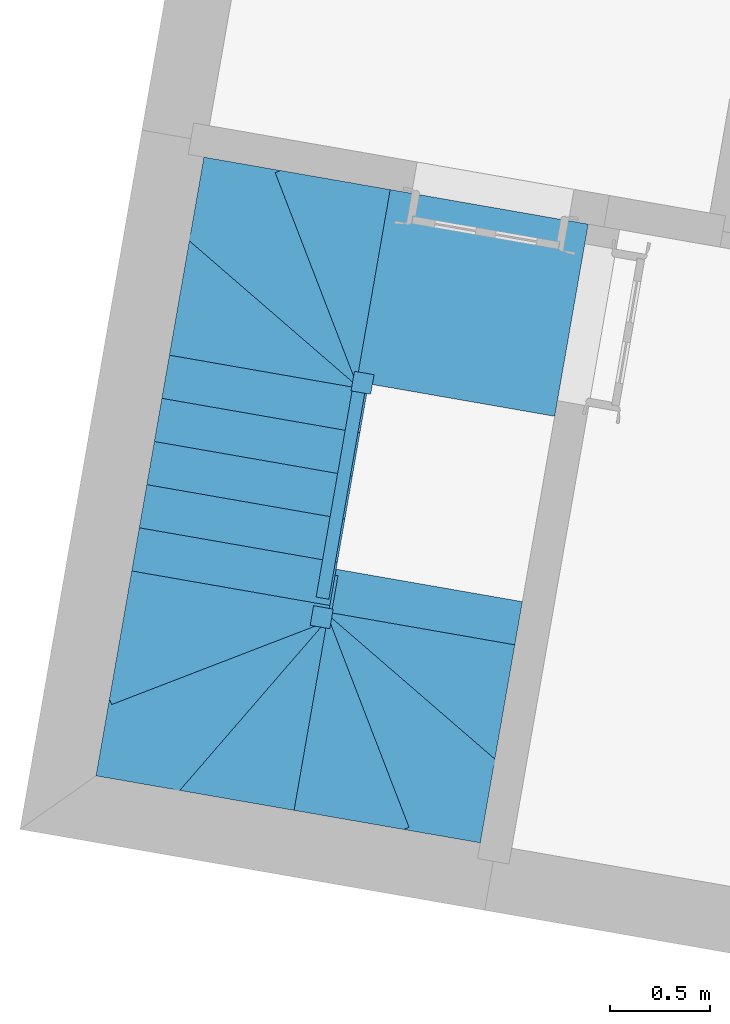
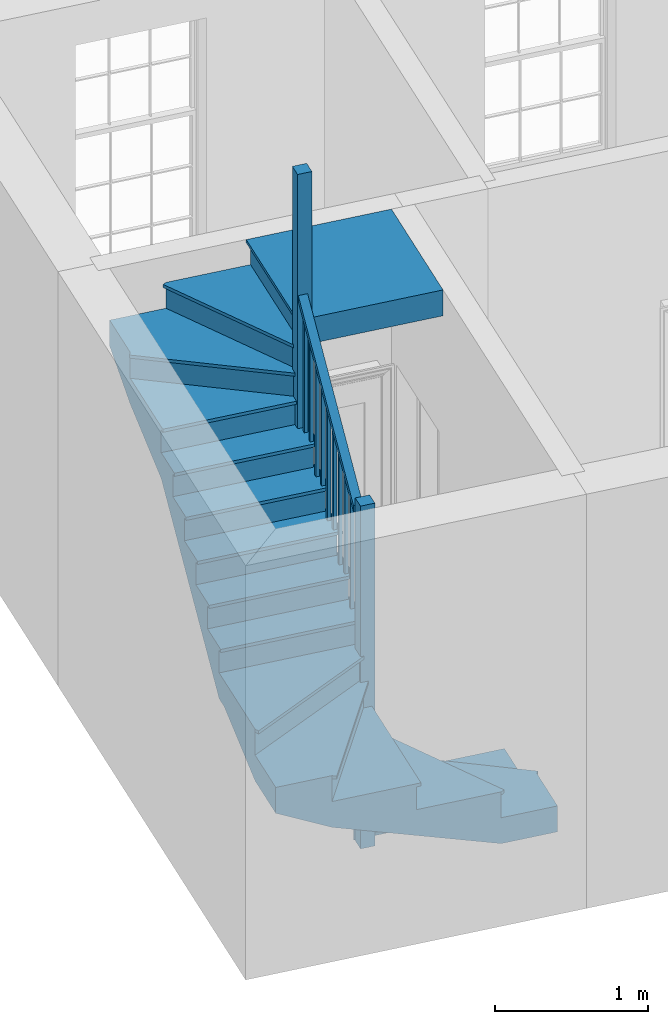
# One storey, part 6 of 6: 1 stair.
"""IFC4 building model written with IfcOpenShell, lengths in metres."""

from ifc_helpers import new_model, si_unit, frame, origin, origin_with_axes, place, context, subcontext, project, spatial, faceted_brep, element, save


model = new_model("IFC4")

# Units and contexts
model_context = context("Model", 3, world=origin_with_axes())
body_context = subcontext(model_context, "Body", "Model", "MODEL_VIEW")
ifc_project = project(units=[si_unit("PLANEANGLEUNIT", "RADIAN"), si_unit("MASSUNIT", "GRAM", prefix="KILO"), si_unit("FORCEUNIT", "NEWTON", prefix="KILO"), si_unit("LENGTHUNIT", "METRE"), si_unit("AREAUNIT", "SQUARE_METRE"), si_unit("VOLUMEUNIT", "CUBIC_METRE")], contexts=[model_context, model_context])

# Sites, building, storey
site_1_placement = place(None, origin_with_axes())
site_1 = spatial("IfcSite", under=ifc_project, at=site_1_placement, Name="Tamar")
site_2_placement = place(site_1_placement, origin_with_axes())
site_2 = spatial("IfcSite", under=site_1, at=site_2_placement, Name="Site plot-27", CompositionType="ELEMENT")
building_placement = place(None, origin_with_axes())
building = spatial("IfcBuilding", under=site_2, at=building_placement, Name="Building plot-27", CompositionType="ELEMENT")
storey_placement = place(None, frame((0.0, 0.0, 26.0), z_axis=(0.0, 0.0, 1.0), x_axis=(1.0, 0.0, 0.0)))
storey = spatial("IfcBuildingStorey", under=building, at=storey_placement, Name="plot-27 0", CompositionType="ELEMENT", Elevation=26.0)

# Stair
stair_placement = place(None, origin())
element("IfcStair", 1, at=stair_placement, inside=storey, Name="Stair", PredefinedType="NOTDEFINED", context=body_context, shape_type="Brep", body=[
    faceted_brep([(292.456542, 271.269902, 28.8875), (292.624795, 272.23476, 28.8875), (292.624795, 272.23476, 29.09375), (292.456542, 271.269902, 29.09375)], [[[0, 1, 2, 3]], [[1, 0, 3, 2]]]),
    faceted_brep([(292.443126, 271.243069, 29.06875), (292.443126, 271.243069, 29.09375), (292.456542, 271.269902, 29.06875), (292.456542, 271.269902, 29.09375)], [[[0, 1, 2]], [[1, 0, 2]], [[2, 1, 3]], [[1, 2, 3]]]),
    faceted_brep([(292.398696, 271.229235, 30.29375), (292.497209, 271.212056, 30.29375), (292.514388, 271.310569, 30.29375), (292.415875, 271.327748, 30.29375), (292.415875, 271.327748, 29.09375), (292.514388, 271.310569, 29.09375), (292.497209, 271.212056, 29.09375), (292.398696, 271.229235, 29.09375)], [[[0, 1, 2, 3]], [[4, 5, 6, 7]], [[7, 6, 1, 0]], [[6, 5, 2, 1]], [[5, 4, 3, 2]], [[4, 7, 0, 3]]]),
    faceted_brep([(292.624795, 272.23476, 29.09375), (292.04588, 272.335711, 29.09375), (292.456542, 271.269902, 29.09375), (292.456542, 271.269902, 28.68125), (292.04588, 272.335711, 28.68125), (292.624795, 272.23476, 28.8875)], [[[0, 1, 2]], [[3, 4, 5]], [[0, 5, 4, 1]], [[4, 3, 2, 1]], [[2, 3, 5, 0]]]),
    faceted_brep([(292.017887, 272.324925, 29.06875), (292.017887, 272.324925, 29.09375), (292.04588, 272.335711, 29.06875), (292.428548, 271.259116, 29.09375), (292.428548, 271.259116, 29.06875), (292.456542, 271.269902, 29.06875), (292.04588, 272.335711, 29.09375), (292.456542, 271.269902, 29.09375)], [[[0, 1, 2]], [[3, 4, 5]], [[2, 1, 6]], [[3, 5, 7]], [[6, 1, 3, 7]], [[2, 6, 7, 5]], [[0, 2, 5, 4]], [[1, 0, 4, 3]]]),
    faceted_brep([(292.04588, 272.335711, 28.8875), (291.659938, 272.403012, 28.8875), (291.592636, 272.017069, 28.8875), (292.456542, 271.269902, 28.8875), (292.456542, 271.269902, 28.475), (291.592636, 272.017069, 28.475), (291.659938, 272.403012, 28.68125), (292.04588, 272.335711, 28.68125)], [[[0, 1, 2, 3]], [[4, 5, 6, 7]], [[7, 6, 1, 0]], [[1, 6, 5, 2]], [[5, 4, 3, 2]], [[3, 4, 7, 0]]]),
    faceted_brep([(291.592636, 272.017069, 28.8625), (291.573012, 271.994379, 28.8625), (291.592636, 272.017069, 28.8875), (292.436917, 271.247211, 28.8625), (292.456542, 271.269902, 28.8625), (292.456542, 271.269902, 28.8875), (291.573012, 271.994379, 28.8875), (292.436917, 271.247211, 28.8875)], [[[0, 1, 2]], [[3, 4, 5]], [[1, 6, 2]], [[7, 3, 5]], [[2, 6, 7, 5]], [[0, 2, 5, 4]], [[1, 0, 4, 3]], [[6, 1, 3, 7]]]),
    faceted_brep([(291.592636, 272.017069, 28.68125), (291.491685, 271.438155, 28.68125), (292.456542, 271.269902, 28.68125), (292.456542, 271.269902, 28.26875), (291.491685, 271.438155, 28.26875), (291.592636, 272.017069, 28.475)], [[[0, 1, 2]], [[3, 4, 5]], [[0, 5, 4, 1]], [[4, 3, 2, 1]], [[2, 3, 5, 0]]]),
    faceted_brep([(291.486531, 271.408601, 28.65625), (291.486531, 271.408601, 28.68125), (291.491685, 271.438155, 28.65625), (292.451388, 271.240348, 28.68125), (292.451388, 271.240348, 28.65625), (292.456542, 271.269902, 28.65625), (291.491685, 271.438155, 28.68125), (292.456542, 271.269902, 28.68125)], [[[0, 1, 2]], [[3, 4, 5]], [[2, 1, 6]], [[3, 5, 7]], [[6, 1, 3, 7]], [[2, 6, 7, 5]], [[0, 2, 5, 4]], [[1, 0, 4, 3]]]),
    faceted_brep([(292.398696, 271.229235, 29.09375), (292.497209, 271.212056, 29.09375), (292.514388, 271.310569, 29.09375), (292.415875, 271.327748, 29.09375), (292.415875, 271.327748, 28.18125), (292.514388, 271.310569, 28.18125), (292.497209, 271.212056, 28.18125), (292.398696, 271.229235, 28.18125)], [[[0, 1, 2, 3]], [[4, 5, 6, 7]], [[7, 6, 1, 0]], [[6, 5, 2, 1]], [[5, 4, 3, 2]], [[4, 7, 0, 3]]]),
    faceted_brep([(292.456542, 271.269902, 28.475), (291.491685, 271.438155, 28.475), (291.453891, 271.221426, 28.475), (292.418749, 271.053173, 28.475), (292.418749, 271.053173, 28.0625), (291.453891, 271.221426, 28.0625), (291.491685, 271.438155, 28.26875), (292.456542, 271.269902, 28.26875)], [[[0, 1, 2, 3]], [[4, 5, 6, 7]], [[7, 6, 1, 0]], [[1, 6, 5, 2]], [[5, 4, 3, 2]], [[3, 4, 7, 0]]]),
    faceted_brep([(291.453891, 271.221426, 28.45), (291.448737, 271.191872, 28.45), (291.453891, 271.221426, 28.475), (291.496838, 271.467709, 28.45), (291.491685, 271.438155, 28.45), (291.491685, 271.438155, 28.475), (291.448737, 271.191872, 28.475), (291.496838, 271.467709, 28.475), (292.443149, 271.018465, 28.475), (292.418749, 271.053173, 28.475), (292.418749, 271.053173, 28.45), (292.443149, 271.018465, 28.45), (292.49125, 271.294302, 28.475), (292.456542, 271.269902, 28.475), (292.456542, 271.269902, 28.45), (292.49125, 271.294302, 28.45)], [[[0, 1, 2]], [[3, 4, 5]], [[1, 6, 2]], [[7, 3, 5]], [[2, 6, 8, 9]], [[0, 2, 9, 10]], [[1, 0, 10, 11]], [[6, 1, 11, 8]], [[9, 8, 12, 13]], [[10, 9, 13, 14]], [[11, 10, 14, 15]], [[8, 11, 15, 12]], [[13, 12, 7, 5]], [[14, 13, 5, 4]], [[15, 14, 4, 3]], [[12, 15, 3, 7]]]),
    faceted_brep([(292.418749, 271.053173, 29.375), (292.423043, 271.077801, 29.375), (292.398415, 271.082096, 29.375), (292.39412, 271.057467, 29.375), (292.39412, 271.057467, 28.475), (292.398415, 271.082096, 28.475), (292.423043, 271.077801, 28.475), (292.418749, 271.053173, 28.475)], [[[0, 1, 2, 3]], [[4, 5, 6, 7]], [[7, 6, 1, 0]], [[6, 5, 2, 1]], [[5, 4, 3, 2]], [[4, 7, 0, 3]]]),
    faceted_brep([(292.437645, 271.161537, 29.478125), (292.44194, 271.186166, 29.478125), (292.417312, 271.19046, 29.478125), (292.413017, 271.165832, 29.478125), (292.413017, 271.165832, 28.475), (292.417312, 271.19046, 28.475), (292.44194, 271.186166, 28.475), (292.437645, 271.161537, 28.475)], [[[0, 1, 2, 3]], [[4, 5, 6, 7]], [[7, 6, 1, 0]], [[6, 5, 2, 1]], [[5, 4, 3, 2]], [[4, 7, 0, 3]]]),
    faceted_brep([(292.374418, 271.060903, 29.325), (292.438451, 271.049737, 29.325), (292.438451, 271.049737, 29.375), (292.374418, 271.060903, 29.375), (292.476245, 271.266466, 29.53125), (292.412211, 271.277633, 29.53125), (292.412211, 271.277633, 29.58125), (292.476245, 271.266466, 29.58125)], [[[0, 1, 2, 3]], [[4, 5, 6, 7]], [[0, 5, 4, 1]], [[3, 2, 7, 6]], [[0, 3, 6, 5]], [[2, 1, 4, 7]]]),
    faceted_brep([(292.418749, 271.053173, 28.26875), (291.453891, 271.221426, 28.26875), (291.416098, 271.004696, 28.26875), (292.380955, 270.836443, 28.26875), (292.380955, 270.836443, 27.85625), (291.416098, 271.004696, 27.85625), (291.453891, 271.221426, 28.0625), (292.418749, 271.053173, 28.0625)], [[[0, 1, 2, 3]], [[4, 5, 6, 7]], [[7, 6, 1, 0]], [[1, 6, 5, 2]], [[5, 4, 3, 2]], [[3, 4, 7, 0]]]),
    faceted_brep([(291.410944, 270.975142, 28.24375), (291.410944, 270.975142, 28.26875), (291.416098, 271.004696, 28.24375), (291.459045, 271.25098, 28.26875), (291.459045, 271.25098, 28.24375), (291.453891, 271.221426, 28.24375), (291.416098, 271.004696, 28.26875), (291.453891, 271.221426, 28.26875), (292.405355, 270.801736, 28.26875), (292.380955, 270.836443, 28.26875), (292.380955, 270.836443, 28.24375), (292.405355, 270.801736, 28.24375), (292.453456, 271.077573, 28.26875), (292.418749, 271.053173, 28.26875), (292.418749, 271.053173, 28.24375), (292.453456, 271.077573, 28.24375)], [[[0, 1, 2]], [[3, 4, 5]], [[2, 1, 6]], [[3, 5, 7]], [[6, 1, 8, 9]], [[2, 6, 9, 10]], [[0, 2, 10, 11]], [[1, 0, 11, 8]], [[9, 8, 12, 13]], [[10, 9, 13, 14]], [[11, 10, 14, 15]], [[8, 11, 15, 12]], [[13, 12, 3, 7]], [[14, 13, 7, 5]], [[15, 14, 5, 4]], [[12, 15, 4, 3]]]),
    faceted_brep([(292.380955, 270.836443, 29.16875), (292.38525, 270.861072, 29.16875), (292.360621, 270.865366, 29.16875), (292.356327, 270.840738, 29.16875), (292.356327, 270.840738, 28.26875), (292.360621, 270.865366, 28.26875), (292.38525, 270.861072, 28.26875), (292.380955, 270.836443, 28.26875)], [[[0, 1, 2, 3]], [[4, 5, 6, 7]], [[7, 6, 1, 0]], [[6, 5, 2, 1]], [[5, 4, 3, 2]], [[4, 7, 0, 3]]]),
    faceted_brep([(292.399852, 270.944808, 29.271875), (292.404147, 270.969436, 29.271875), (292.379518, 270.973731, 29.271875), (292.375223, 270.949103, 29.271875), (292.375223, 270.949103, 28.26875), (292.379518, 270.973731, 28.26875), (292.404147, 270.969436, 28.26875), (292.399852, 270.944808, 28.26875)], [[[0, 1, 2, 3]], [[4, 5, 6, 7]], [[7, 6, 1, 0]], [[6, 5, 2, 1]], [[5, 4, 3, 2]], [[4, 7, 0, 3]]]),
    faceted_brep([(292.336624, 270.844174, 29.11875), (292.400658, 270.833007, 29.11875), (292.400658, 270.833007, 29.16875), (292.336624, 270.844174, 29.16875), (292.438451, 271.049737, 29.325), (292.374418, 271.060903, 29.325), (292.374418, 271.060903, 29.375), (292.438451, 271.049737, 29.375)], [[[0, 1, 2, 3]], [[4, 5, 6, 7]], [[0, 5, 4, 1]], [[3, 2, 7, 6]], [[0, 3, 6, 5]], [[2, 1, 4, 7]]]),
    faceted_brep([(292.380955, 270.836443, 28.0625), (291.416098, 271.004696, 28.0625), (291.378304, 270.787967, 28.0625), (292.343162, 270.619714, 28.0625), (292.343162, 270.619714, 27.65), (291.378304, 270.787967, 27.65), (291.416098, 271.004696, 27.85625), (292.380955, 270.836443, 27.85625)], [[[0, 1, 2, 3]], [[4, 5, 6, 7]], [[7, 6, 1, 0]], [[1, 6, 5, 2]], [[5, 4, 3, 2]], [[3, 4, 7, 0]]]),
    faceted_brep([(291.37315, 270.758413, 28.0375), (291.37315, 270.758413, 28.0625), (291.378304, 270.787967, 28.0375), (291.421251, 271.03425, 28.0625), (291.421251, 271.03425, 28.0375), (291.416098, 271.004696, 28.0375), (291.378304, 270.787967, 28.0625), (291.416098, 271.004696, 28.0625), (292.367562, 270.585006, 28.0625), (292.343162, 270.619714, 28.0625), (292.343162, 270.619714, 28.0375), (292.367562, 270.585006, 28.0375), (292.415663, 270.860844, 28.0625), (292.380955, 270.836443, 28.0625), (292.380955, 270.836443, 28.0375), (292.415663, 270.860844, 28.0375)], [[[0, 1, 2]], [[3, 4, 5]], [[2, 1, 6]], [[3, 5, 7]], [[6, 1, 8, 9]], [[2, 6, 9, 10]], [[0, 2, 10, 11]], [[1, 0, 11, 8]], [[9, 8, 12, 13]], [[10, 9, 13, 14]], [[11, 10, 14, 15]], [[8, 11, 15, 12]], [[13, 12, 3, 7]], [[14, 13, 7, 5]], [[15, 14, 5, 4]], [[12, 15, 4, 3]]]),
    faceted_brep([(292.343162, 270.619714, 28.9625), (292.347456, 270.644342, 28.9625), (292.322828, 270.648637, 28.9625), (292.318533, 270.624009, 28.9625), (292.318533, 270.624009, 28.0625), (292.322828, 270.648637, 28.0625), (292.347456, 270.644342, 28.0625), (292.343162, 270.619714, 28.0625)], [[[0, 1, 2, 3]], [[4, 5, 6, 7]], [[7, 6, 1, 0]], [[6, 5, 2, 1]], [[5, 4, 3, 2]], [[4, 7, 0, 3]]]),
    faceted_brep([(292.362058, 270.728079, 29.065625), (292.366353, 270.752707, 29.065625), (292.341725, 270.757002, 29.065625), (292.33743, 270.732373, 29.065625), (292.33743, 270.732373, 28.0625), (292.341725, 270.757002, 28.0625), (292.366353, 270.752707, 28.0625), (292.362058, 270.728079, 28.0625)], [[[0, 1, 2, 3]], [[4, 5, 6, 7]], [[7, 6, 1, 0]], [[6, 5, 2, 1]], [[5, 4, 3, 2]], [[4, 7, 0, 3]]]),
    faceted_brep([(292.298831, 270.627444, 28.9125), (292.362864, 270.616278, 28.9125), (292.362864, 270.616278, 28.9625), (292.298831, 270.627444, 28.9625), (292.400658, 270.833007, 29.11875), (292.336624, 270.844174, 29.11875), (292.336624, 270.844174, 29.16875), (292.400658, 270.833007, 29.16875)], [[[0, 1, 2, 3]], [[4, 5, 6, 7]], [[0, 5, 4, 1]], [[3, 2, 7, 6]], [[0, 3, 6, 5]], [[2, 1, 4, 7]]]),
    faceted_brep([(292.343162, 270.619714, 27.85625), (291.378304, 270.787967, 27.85625), (291.340511, 270.571237, 27.85625), (292.305368, 270.402984, 27.85625), (292.305368, 270.402984, 27.44375), (291.340511, 270.571237, 27.44375), (291.378304, 270.787967, 27.65), (292.343162, 270.619714, 27.65)], [[[0, 1, 2, 3]], [[4, 5, 6, 7]], [[7, 6, 1, 0]], [[1, 6, 5, 2]], [[5, 4, 3, 2]], [[3, 4, 7, 0]]]),
    faceted_brep([(291.340511, 270.571237, 27.83125), (291.335357, 270.541683, 27.83125), (291.340511, 270.571237, 27.85625), (291.383458, 270.817521, 27.83125), (291.378304, 270.787967, 27.83125), (291.378304, 270.787967, 27.85625), (291.335357, 270.541683, 27.85625), (291.383458, 270.817521, 27.85625), (292.329768, 270.368277, 27.85625), (292.305368, 270.402984, 27.85625), (292.305368, 270.402984, 27.83125), (292.329768, 270.368277, 27.83125), (292.377869, 270.644114, 27.85625), (292.343162, 270.619714, 27.85625), (292.343162, 270.619714, 27.83125), (292.377869, 270.644114, 27.83125)], [[[0, 1, 2]], [[3, 4, 5]], [[1, 6, 2]], [[7, 3, 5]], [[2, 6, 8, 9]], [[0, 2, 9, 10]], [[1, 0, 10, 11]], [[6, 1, 11, 8]], [[9, 8, 12, 13]], [[10, 9, 13, 14]], [[11, 10, 14, 15]], [[8, 11, 15, 12]], [[13, 12, 7, 5]], [[14, 13, 5, 4]], [[15, 14, 4, 3]], [[12, 15, 3, 7]]]),
    faceted_brep([(292.305368, 270.402984, 28.75625), (292.309663, 270.427613, 28.75625), (292.285034, 270.431907, 28.75625), (292.28074, 270.407279, 28.75625), (292.28074, 270.407279, 27.85625), (292.285034, 270.431907, 27.85625), (292.309663, 270.427613, 27.85625), (292.305368, 270.402984, 27.85625)], [[[0, 1, 2, 3]], [[4, 5, 6, 7]], [[7, 6, 1, 0]], [[6, 5, 2, 1]], [[5, 4, 3, 2]], [[4, 7, 0, 3]]]),
    faceted_brep([(292.324265, 270.511349, 28.859375), (292.328559, 270.535977, 28.859375), (292.303931, 270.540272, 28.859375), (292.299636, 270.515644, 28.859375), (292.299636, 270.515644, 27.85625), (292.303931, 270.540272, 27.85625), (292.328559, 270.535977, 27.85625), (292.324265, 270.511349, 27.85625)], [[[0, 1, 2, 3]], [[4, 5, 6, 7]], [[7, 6, 1, 0]], [[6, 5, 2, 1]], [[5, 4, 3, 2]], [[4, 7, 0, 3]]]),
    faceted_brep([(292.261037, 270.410715, 28.70625), (292.325071, 270.399549, 28.70625), (292.325071, 270.399549, 28.75625), (292.261037, 270.410715, 28.75625), (292.362864, 270.616278, 28.9125), (292.298831, 270.627444, 28.9125), (292.298831, 270.627444, 28.9625), (292.362864, 270.616278, 28.9625)], [[[0, 1, 2, 3]], [[4, 5, 6, 7]], [[0, 5, 4, 1]], [[3, 2, 7, 6]], [[0, 3, 6, 5]], [[2, 1, 4, 7]]]),
    faceted_brep([(292.305368, 270.402984, 27.65), (291.340511, 270.571237, 27.65), (291.302717, 270.354508, 27.65), (292.267575, 270.186255, 27.65), (292.267575, 270.186255, 27.2375), (291.302717, 270.354508, 27.2375), (291.340511, 270.571237, 27.44375), (292.305368, 270.402984, 27.44375)], [[[0, 1, 2, 3]], [[4, 5, 6, 7]], [[7, 6, 1, 0]], [[1, 6, 5, 2]], [[5, 4, 3, 2]], [[3, 4, 7, 0]]]),
    faceted_brep([(291.297563, 270.324954, 27.625), (291.297563, 270.324954, 27.65), (291.302717, 270.354508, 27.625), (291.345664, 270.600791, 27.65), (291.345664, 270.600791, 27.625), (291.340511, 270.571237, 27.625), (291.302717, 270.354508, 27.65), (291.340511, 270.571237, 27.65), (292.291975, 270.151547, 27.65), (292.267575, 270.186255, 27.65), (292.267575, 270.186255, 27.625), (292.291975, 270.151547, 27.625), (292.340076, 270.427385, 27.65), (292.305368, 270.402984, 27.65), (292.305368, 270.402984, 27.625), (292.340076, 270.427385, 27.625)], [[[0, 1, 2]], [[3, 4, 5]], [[2, 1, 6]], [[3, 5, 7]], [[6, 1, 8, 9]], [[2, 6, 9, 10]], [[0, 2, 10, 11]], [[1, 0, 11, 8]], [[9, 8, 12, 13]], [[10, 9, 13, 14]], [[11, 10, 14, 15]], [[8, 11, 15, 12]], [[13, 12, 3, 7]], [[14, 13, 7, 5]], [[15, 14, 5, 4]], [[12, 15, 4, 3]]]),
    faceted_brep([(292.267575, 270.186255, 28.55), (292.271869, 270.210883, 28.55), (292.247241, 270.215178, 28.55), (292.242946, 270.19055, 28.55), (292.242946, 270.19055, 27.65), (292.247241, 270.215178, 27.65), (292.271869, 270.210883, 27.65), (292.267575, 270.186255, 27.65)], [[[0, 1, 2, 3]], [[4, 5, 6, 7]], [[7, 6, 1, 0]], [[6, 5, 2, 1]], [[5, 4, 3, 2]], [[4, 7, 0, 3]]]),
    faceted_brep([(292.286471, 270.29462, 28.653125), (292.290766, 270.319248, 28.653125), (292.266138, 270.323543, 28.653125), (292.261843, 270.298914, 28.653125), (292.261843, 270.298914, 27.65), (292.266138, 270.323543, 27.65), (292.290766, 270.319248, 27.65), (292.286471, 270.29462, 27.65)], [[[0, 1, 2, 3]], [[4, 5, 6, 7]], [[7, 6, 1, 0]], [[6, 5, 2, 1]], [[5, 4, 3, 2]], [[4, 7, 0, 3]]]),
    faceted_brep([(292.223243, 270.193985, 28.5), (292.287277, 270.182819, 28.5), (292.287277, 270.182819, 28.55), (292.223243, 270.193985, 28.55), (292.325071, 270.399549, 28.70625), (292.261037, 270.410715, 28.70625), (292.261037, 270.410715, 28.75625), (292.325071, 270.399549, 28.75625)], [[[0, 1, 2, 3]], [[4, 5, 6, 7]], [[0, 5, 4, 1]], [[3, 2, 7, 6]], [[0, 3, 6, 5]], [[2, 1, 4, 7]]]),
    faceted_brep([(292.267575, 270.186255, 27.44375), (291.302717, 270.354508, 27.44375), (291.286406, 270.26097, 27.44375), (292.251263, 270.092717, 27.44375), (292.251263, 270.092717, 27.2375), (291.286406, 270.26097, 27.2375), (291.302717, 270.354508, 27.2375), (292.267575, 270.186255, 27.2375)], [[[0, 1, 2, 3]], [[4, 5, 6, 7]], [[7, 6, 1, 0]], [[6, 5, 2, 1]], [[5, 4, 3, 2]], [[4, 7, 0, 3]]]),
    faceted_brep([(292.251263, 270.092717, 27.41875), (292.280817, 270.087564, 27.41875), (292.251263, 270.092717, 27.44375), (292.297129, 270.181101, 27.41875), (292.267575, 270.186255, 27.41875), (292.267575, 270.186255, 27.44375), (292.280817, 270.087564, 27.44375), (292.297129, 270.181101, 27.44375)], [[[0, 1, 2]], [[3, 4, 5]], [[1, 6, 2]], [[7, 3, 5]], [[2, 6, 7, 5]], [[0, 2, 5, 4]], [[1, 0, 4, 3]], [[6, 1, 3, 7]]]),
    faceted_brep([(292.291931, 270.034871, 28.64375), (292.309109, 270.133385, 28.64375), (292.210596, 270.150563, 28.64375), (292.193417, 270.05205, 28.64375), (292.193417, 270.05205, 27.44375), (292.210596, 270.150563, 27.44375), (292.309109, 270.133385, 27.44375), (292.291931, 270.034871, 27.44375)], [[[0, 1, 2, 3]], [[4, 5, 6, 7]], [[7, 6, 1, 0]], [[6, 5, 2, 1]], [[5, 4, 3, 2]], [[4, 7, 0, 3]]]),
    faceted_brep([(291.286406, 270.26097, 27.44375), (291.185454, 269.682056, 27.44375), (292.251263, 270.092717, 27.44375), (292.251263, 270.092717, 27.03125), (291.185454, 269.682056, 27.03125), (291.286406, 270.26097, 27.2375)], [[[0, 1, 2]], [[3, 4, 5]], [[0, 5, 4, 1]], [[4, 3, 2, 1]], [[2, 3, 5, 0]]]),
    faceted_brep([(291.185454, 269.682056, 27.41875), (291.19624, 269.654062, 27.41875), (291.185454, 269.682056, 27.44375), (292.26205, 270.064723, 27.41875), (292.251263, 270.092717, 27.41875), (292.251263, 270.092717, 27.44375), (291.19624, 269.654062, 27.44375), (292.26205, 270.064723, 27.44375)], [[[0, 1, 2]], [[3, 4, 5]], [[1, 6, 2]], [[7, 3, 5]], [[2, 6, 7, 5]], [[0, 2, 5, 4]], [[1, 0, 4, 3]], [[6, 1, 3, 7]]]),
    faceted_brep([(291.185454, 269.682056, 27.2375), (291.118153, 269.296113, 27.2375), (291.504096, 269.228812, 27.2375), (292.251263, 270.092717, 27.2375), (292.251263, 270.092717, 26.825), (291.504096, 269.228812, 26.825), (291.118153, 269.296113, 27.03125), (291.185454, 269.682056, 27.03125)], [[[0, 1, 2, 3]], [[4, 5, 6, 7]], [[7, 6, 1, 0]], [[1, 6, 5, 2]], [[5, 4, 3, 2]], [[3, 4, 7, 0]]]),
    faceted_brep([(291.504096, 269.228812, 27.2125), (291.526787, 269.209187, 27.2125), (291.504096, 269.228812, 27.2375), (292.273954, 270.073093, 27.2125), (292.251263, 270.092717, 27.2125), (292.251263, 270.092717, 27.2375), (291.526787, 269.209187, 27.2375), (292.273954, 270.073093, 27.2375)], [[[0, 1, 2]], [[3, 4, 5]], [[1, 6, 2]], [[7, 3, 5]], [[2, 6, 7, 5]], [[0, 2, 5, 4]], [[1, 0, 4, 3]], [[6, 1, 3, 7]]]),
    faceted_brep([(291.504096, 269.228812, 27.03125), (292.08301, 269.12786, 27.03125), (292.251263, 270.092717, 27.03125), (292.251263, 270.092717, 26.61875), (292.08301, 269.12786, 26.61875), (291.504096, 269.228812, 26.825)], [[[0, 1, 2]], [[3, 4, 5]], [[0, 5, 4, 1]], [[4, 3, 2, 1]], [[2, 3, 5, 0]]]),
    faceted_brep([(292.112564, 269.122706, 27.00625), (292.112564, 269.122706, 27.03125), (292.08301, 269.12786, 27.00625), (292.280817, 270.087564, 27.03125), (292.280817, 270.087564, 27.00625), (292.251263, 270.092717, 27.00625), (292.08301, 269.12786, 27.03125), (292.251263, 270.092717, 27.03125)], [[[0, 1, 2]], [[3, 4, 5]], [[2, 1, 6]], [[3, 5, 7]], [[6, 1, 3, 7]], [[2, 6, 7, 5]], [[0, 2, 5, 4]], [[1, 0, 4, 3]]]),
    faceted_brep([(292.291931, 270.034871, 27.44375), (292.309109, 270.133385, 27.44375), (292.210596, 270.150563, 27.44375), (292.193417, 270.05205, 27.44375), (292.193417, 270.05205, 26.53125), (292.210596, 270.150563, 26.53125), (292.309109, 270.133385, 26.53125), (292.291931, 270.034871, 26.53125)], [[[0, 1, 2, 3]], [[4, 5, 6, 7]], [[7, 6, 1, 0]], [[6, 5, 2, 1]], [[5, 4, 3, 2]], [[4, 7, 0, 3]]]),
    faceted_brep([(292.251263, 270.092717, 26.61875), (292.08301, 269.12786, 26.61875), (292.08301, 269.12786, 26.825), (292.251263, 270.092717, 26.825)], [[[0, 1, 2, 3]], [[1, 0, 3, 2]]]),
    faceted_brep([(292.256195, 270.122309, 26.8), (292.256195, 270.122309, 26.825), (292.251263, 270.092717, 26.8), (292.251263, 270.092717, 26.825)], [[[0, 1, 2]], [[1, 0, 2]], [[2, 1, 3]], [[1, 2, 3]]]),
    faceted_brep([(292.309109, 270.133385, 28.025), (292.210596, 270.150563, 28.025), (292.193417, 270.05205, 28.025), (292.291931, 270.034871, 28.025), (292.291931, 270.034871, 26.825), (292.193417, 270.05205, 26.825), (292.210596, 270.150563, 26.825), (292.309109, 270.133385, 26.825)], [[[0, 1, 2, 3]], [[4, 5, 6, 7]], [[7, 6, 1, 0]], [[6, 5, 2, 1]], [[5, 4, 3, 2]], [[4, 7, 0, 3]]]),
    faceted_brep([(292.08301, 269.12786, 26.825), (292.661925, 269.026908, 26.825), (292.251263, 270.092717, 26.825), (292.251263, 270.092717, 26.4125), (292.661925, 269.026908, 26.4125), (292.08301, 269.12786, 26.61875)], [[[0, 1, 2]], [[3, 4, 5]], [[0, 5, 4, 1]], [[4, 3, 2, 1]], [[2, 3, 5, 0]]]),
    faceted_brep([(292.689919, 269.037694, 26.8), (292.689919, 269.037694, 26.825), (292.661925, 269.026908, 26.8), (292.279257, 270.103504, 26.825), (292.279257, 270.103504, 26.8), (292.251263, 270.092717, 26.8), (292.661925, 269.026908, 26.825), (292.251263, 270.092717, 26.825)], [[[0, 1, 2]], [[3, 4, 5]], [[2, 1, 6]], [[3, 5, 7]], [[6, 1, 3, 7]], [[2, 6, 7, 5]], [[0, 2, 5, 4]], [[1, 0, 4, 3]]]),
    faceted_brep([(292.661925, 269.026908, 26.61875), (293.047868, 268.959607, 26.61875), (293.115169, 269.34555, 26.61875), (292.251263, 270.092717, 26.61875), (292.251263, 270.092717, 26.20625), (293.115169, 269.34555, 26.20625), (293.047868, 268.959607, 26.4125), (292.661925, 269.026908, 26.4125)], [[[0, 1, 2, 3]], [[4, 5, 6, 7]], [[7, 6, 1, 0]], [[1, 6, 5, 2]], [[5, 4, 3, 2]], [[3, 4, 7, 0]]]),
    faceted_brep([(293.115169, 269.34555, 26.59375), (293.134794, 269.368241, 26.59375), (293.115169, 269.34555, 26.61875), (292.270888, 270.115408, 26.59375), (292.251263, 270.092717, 26.59375), (292.251263, 270.092717, 26.61875), (293.134794, 269.368241, 26.61875), (292.270888, 270.115408, 26.61875)], [[[0, 1, 2]], [[3, 4, 5]], [[1, 6, 2]], [[7, 3, 5]], [[2, 6, 7, 5]], [[0, 2, 5, 4]], [[1, 0, 4, 3]], [[6, 1, 3, 7]]]),
    faceted_brep([(293.115169, 269.34555, 26.4125), (293.216121, 269.924464, 26.4125), (292.251263, 270.092717, 26.4125), (292.251263, 270.092717, 26.0), (293.216121, 269.924464, 26.0), (293.115169, 269.34555, 26.20625)], [[[0, 1, 2]], [[3, 4, 5]], [[0, 5, 4, 1]], [[4, 3, 2, 1]], [[2, 3, 5, 0]]]),
    faceted_brep([(293.221274, 269.954018, 26.3875), (293.221274, 269.954018, 26.4125), (293.216121, 269.924464, 26.3875), (292.256417, 270.122271, 26.4125), (292.256417, 270.122271, 26.3875), (292.251263, 270.092717, 26.3875), (293.216121, 269.924464, 26.4125), (292.251263, 270.092717, 26.4125)], [[[0, 1, 2]], [[3, 4, 5]], [[2, 1, 6]], [[3, 5, 7]], [[6, 1, 3, 7]], [[2, 6, 7, 5]], [[0, 2, 5, 4]], [[1, 0, 4, 3]]]),
    faceted_brep([(292.309109, 270.133385, 26.825), (292.210596, 270.150563, 26.825), (292.193417, 270.05205, 26.825), (292.291931, 270.034871, 26.825), (292.291931, 270.034871, 25.9125), (292.193417, 270.05205, 25.9125), (292.210596, 270.150563, 25.9125), (292.309109, 270.133385, 25.9125)], [[[0, 1, 2, 3]], [[4, 5, 6, 7]], [[7, 6, 1, 0]], [[6, 5, 2, 1]], [[5, 4, 3, 2]], [[4, 7, 0, 3]]]),
    faceted_brep([(292.251263, 270.092717, 26.20625), (293.216121, 269.924464, 26.20625), (293.253914, 270.141194, 26.20625), (292.289057, 270.309447, 26.20625), (292.289057, 270.309447, 25.79375), (293.253914, 270.141194, 25.79375), (293.216121, 269.924464, 26.0), (292.251263, 270.092717, 26.0)], [[[0, 1, 2, 3]], [[4, 5, 6, 7]], [[7, 6, 1, 0]], [[1, 6, 5, 2]], [[5, 4, 3, 2]], [[3, 4, 7, 0]]]),
    faceted_brep([(293.259068, 270.170748, 26.18125), (293.259068, 270.170748, 26.20625), (293.253914, 270.141194, 26.18125), (293.210967, 269.89491, 26.20625), (293.210967, 269.89491, 26.18125), (293.216121, 269.924464, 26.18125), (293.253914, 270.141194, 26.20625), (293.216121, 269.924464, 26.20625), (292.264656, 270.344154, 26.20625), (292.289057, 270.309447, 26.20625), (292.289057, 270.309447, 26.18125), (292.264656, 270.344154, 26.18125), (292.216556, 270.068317, 26.20625), (292.251263, 270.092717, 26.20625), (292.251263, 270.092717, 26.18125), (292.216556, 270.068317, 26.18125)], [[[0, 1, 2]], [[3, 4, 5]], [[2, 1, 6]], [[3, 5, 7]], [[6, 1, 8, 9]], [[2, 6, 9, 10]], [[0, 2, 10, 11]], [[1, 0, 11, 8]], [[9, 8, 12, 13]], [[10, 9, 13, 14]], [[11, 10, 14, 15]], [[8, 11, 15, 12]], [[13, 12, 3, 7]], [[14, 13, 7, 5]], [[15, 14, 5, 4]], [[12, 15, 4, 3]]]),
    faceted_brep([(292.289057, 270.309447, 27.10625), (292.284762, 270.284818, 27.10625), (292.30939, 270.280524, 27.10625), (292.313685, 270.305152, 27.10625), (292.313685, 270.305152, 26.20625), (292.30939, 270.280524, 26.20625), (292.284762, 270.284818, 26.20625), (292.289057, 270.309447, 26.20625)], [[[0, 1, 2, 3]], [[4, 5, 6, 7]], [[7, 6, 1, 0]], [[6, 5, 2, 1]], [[5, 4, 3, 2]], [[4, 7, 0, 3]]]),
    faceted_brep([(292.27016, 270.201082, 27.209375), (292.265865, 270.176454, 27.209375), (292.290494, 270.172159, 27.209375), (292.294788, 270.196787, 27.209375), (292.294788, 270.196787, 26.20625), (292.290494, 270.172159, 26.20625), (292.265865, 270.176454, 26.20625), (292.27016, 270.201082, 26.20625)], [[[0, 1, 2, 3]], [[4, 5, 6, 7]], [[7, 6, 1, 0]], [[6, 5, 2, 1]], [[5, 4, 3, 2]], [[4, 7, 0, 3]]]),
    faceted_brep([(292.333388, 270.301716, 27.05625), (292.269354, 270.312883, 27.05625), (292.269354, 270.312883, 27.10625), (292.333388, 270.301716, 27.10625), (292.231561, 270.096153, 27.2625), (292.295594, 270.084987, 27.2625), (292.295594, 270.084987, 27.3125), (292.231561, 270.096153, 27.3125)], [[[0, 1, 2, 3]], [[4, 5, 6, 7]], [[0, 5, 4, 1]], [[3, 2, 7, 6]], [[0, 3, 6, 5]], [[2, 1, 4, 7]]]),
    faceted_brep([(292.456542, 271.269902, 25.975), (292.426988, 271.275056, 25.975), (292.456542, 271.269902, 26.0), (292.259503, 270.3146, 25.975), (292.289057, 270.309447, 25.975), (292.289057, 270.309447, 26.0), (292.426988, 271.275056, 26.0), (292.259503, 270.3146, 26.0)], [[[0, 1, 2]], [[3, 4, 5]], [[1, 6, 2]], [[7, 3, 5]], [[2, 6, 7, 5]], [[0, 2, 5, 4]], [[1, 0, 4, 3]], [[6, 1, 3, 7]]]),
    faceted_brep([(292.415875, 271.327748, 30.5), (292.398696, 271.229235, 30.5), (292.497209, 271.212056, 30.5), (292.514388, 271.310569, 30.5), (292.514388, 271.310569, 29.3), (292.497209, 271.212056, 29.3), (292.398696, 271.229235, 29.3), (292.415875, 271.327748, 29.3)], [[[0, 1, 2, 3]], [[4, 5, 6, 7]], [[7, 6, 1, 0]], [[6, 5, 2, 1]], [[5, 4, 3, 2]], [[4, 7, 0, 3]]]),
    faceted_brep([(292.456542, 271.269902, 29.3), (293.421399, 271.101649, 29.3), (293.589652, 272.066507, 29.3), (292.624795, 272.23476, 29.3), (292.624795, 272.23476, 29.09375), (293.589652, 272.066507, 29.09375), (293.421399, 271.101649, 29.09375), (292.456542, 271.269902, 29.09375)], [[[0, 1, 2, 3]], [[4, 5, 6, 7]], [[7, 6, 1, 0]], [[6, 5, 2, 1]], [[5, 4, 3, 2]], [[4, 7, 0, 3]]]),
    faceted_brep([(292.624795, 272.23476, 29.275), (292.595241, 272.239913, 29.275), (292.624795, 272.23476, 29.3), (292.426988, 271.275056, 29.275), (292.456542, 271.269902, 29.275), (292.456542, 271.269902, 29.3), (292.595241, 272.239913, 29.3), (292.426988, 271.275056, 29.3)], [[[0, 1, 2]], [[3, 4, 5]], [[1, 6, 2]], [[7, 3, 5]], [[2, 6, 7, 5]], [[0, 2, 5, 4]], [[1, 0, 4, 3]], [[6, 1, 3, 7]]]),
    faceted_brep([(292.415875, 271.327748, 29.3), (292.398696, 271.229235, 29.3), (292.497209, 271.212056, 29.3), (292.514388, 271.310569, 29.3), (292.514388, 271.310569, 28.8), (292.497209, 271.212056, 28.8), (292.398696, 271.229235, 28.8), (292.415875, 271.327748, 28.8)], [[[0, 1, 2, 3]], [[4, 5, 6, 7]], [[7, 6, 1, 0]], [[6, 5, 2, 1]], [[5, 4, 3, 2]], [[4, 7, 0, 3]]]),
])

save(model, "model.ifc")
